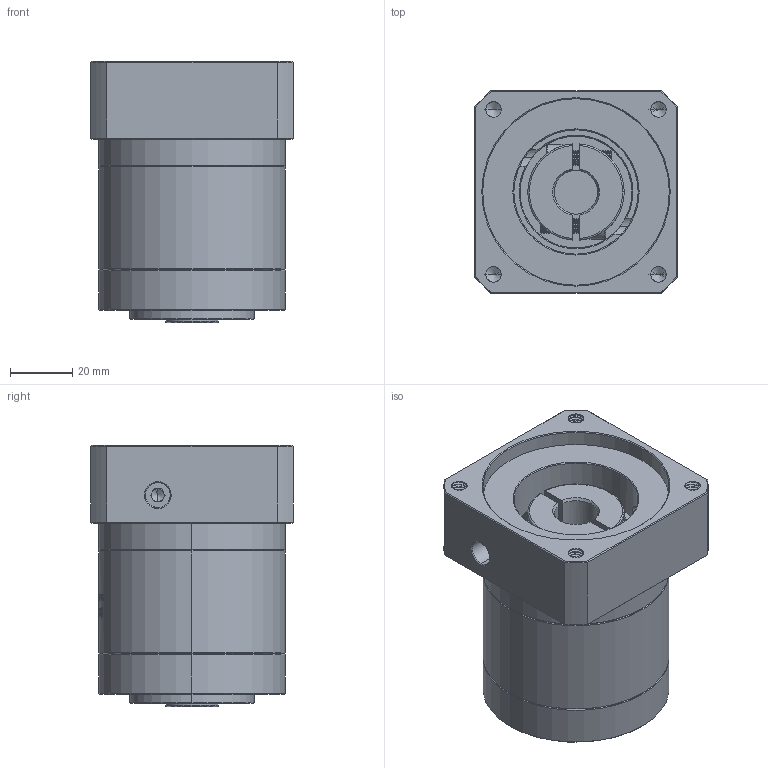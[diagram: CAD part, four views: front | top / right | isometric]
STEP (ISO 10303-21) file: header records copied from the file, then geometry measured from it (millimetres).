
FILE_DESCRIPTION (( 'STEP AP214' ), '1' );
FILE_NAME ('ZE60-K10-L1-14-60-75-M6.STEP', '2022-04-17T15:37:06', ( '' ), ( 'Microsoft' ), 'SwSTEP 2.0', 'SolidWorks 2016', '' );
FILE_SCHEMA (( 'AUTOMOTIVE_DESIGN' ));
Length unit declared in the file: millimetre
Products named in the file (1): ZE60-K10-L1-14-60-75-M6
Bounding box: 65 x 65 x 84 mm (x, y, z)
Volume: 218390.7 mm3; surface area: 44796.8 mm2
Topology: 6 solids, 6 shells, 1682 faces, 4571 edges, 2961 vertices
Faces by surface type: plane 730, cylinder 416, bspline 304, cone 214, torus 18
Entity records: 99165 total; most frequent: CARTESIAN_POINT 42464, ORIENTED_EDGE 9102, DIRECTION 6533, EDGE_CURVE 4551, VERTEX_POINT 2961, VECTOR 2299, LINE 2299, AXIS2_PLACEMENT_3D 2117
